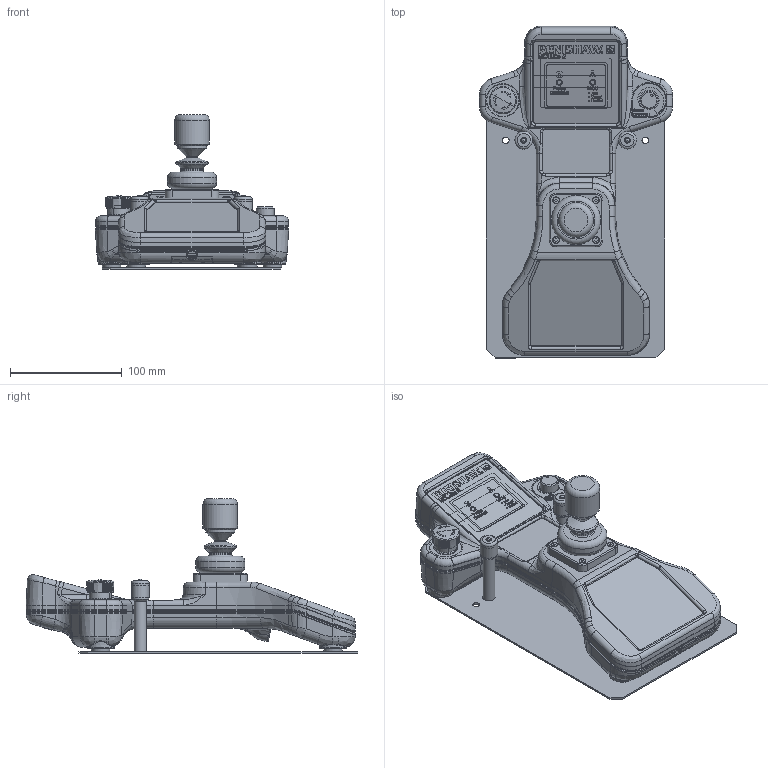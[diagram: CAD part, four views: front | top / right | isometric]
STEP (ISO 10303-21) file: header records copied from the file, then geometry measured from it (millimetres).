
FILE_DESCRIPTION(/* description */ (''),/* implementation_level */ '2;1');
FILE_NAME(/* name */ 'MCUlite-2 _GREY STOP BUTTON_ ASSEMBLY.stp',/* time_stamp */ '2022-01-19T09:20:51+00:00',/* author */ (''),/* organization */ (''),/* preprocessor_version */ 'ST-DEVELOPER v16.7',/* originating_system */ 'SIEMENS PLM Software NX 1946',/* authorisation */ '');
FILE_SCHEMA (('AUTOMOTIVE_DESIGN { 1 0 10303 214 3 1 1 1 }'));
Products named in the file (46): P-SM07-0023-A_Stud Self Clinching M6x12 300Series SS; P-SW01-0035-A_Switch Push Button 42V 0.1A Grey; M-5436-0050-03-B_MCUlite JOYSTICK; F-5734-0601-01-A_MCU-2 FIRMWARE V1.0; M-4151-0152-03-A_MCU BOTTOM ENCLOSURE; M-4151-0151-03-B_MCU TOP ENCLOSURE; P10052-A_PINK ANTISTATIC BAG 4_ X 6_; P-SX02-0019-B_Solder Wire SAC 0.8mm Lead Free; P-CX02-8000-C_Con Crimp Skt 28-32AWG _R_; P-CA09-BE00-A_Wire Equip 7_0.1mm 300V BU; P-CA09-BK00-A_Wire Equip 7_0.1mm 300V BK; P-CA57-0002-A_Sleeve Shrink 2.4mm Yellow 2_1; P-RV02-0003-A_Res Trim 10K 10_ 1W; M-4151-0036-03-A_SUPPORT LEG; P-WM03-10A4-A_BAG POLY SELF SEALING A4; P-WM03-0002-A_BAG SELF SEALING 3.50 X 4.5 IN; M-1015-7599-01-B_MCU1 DP BOX; H-1000-5239-02-A_MCU DOCKING PLATE IL; P-BG03-0017-A_Cap Protective Push-On 13.8IDx13; H-1000-1282-01-A_CMM PRODUCT GUIDES CARD; H-1000-0015-01-A_EXTENDED WARRANTY FLYER - MULTIL; P-AD06-1003-A_Silicone RTV Dow Corning 3140RTV; P-AD04-0019-A_Adhesive Loctite 603; P-WM03-0007-A_BAG SELF SEALING 1.5X2.25; T-4151-0015-04-A_MCU JOYSTICK ASSEMBLY TEST SPEC; P50031-A_DESICCANT 10grm BAG; P50002-A_TAPE ADHESIVE CLEAR 25MM.; P-WM03-0011-A_BAG POLY 12.75 x 22 x 250g; M-1015-0013-02-A_MCU JOYSTICK PACKAGING CARTON; M-1015-0026-01-B_MCU-W JOYSTICK RH PACKAGING INSERT; M-1015-0025-01-B_MCU-W LH JOYSTICK PACKAGING INSERT; P50230-A_SELF SEALING BAG 4 X 5.5_; P-SC02-0320-C_Screw Hex Skt Csk Hd M3x20; M-4151-0153-03-B_MCU CABLE CLAMP; P-FE01-0010-A_ADHESIVE FOOT 19mm DIA BLACK; A-4151-0066-02-F_D TYPE LOOM ASSEMBLY_3D_MODEL; M-5436-0210-03-A_MCUlite-2 LED WINDOW; M-4151-0027-01-G_SPEED OVERRIDE LABEL; A-5734-0070-01-B_STOP LOOM ASSEMBLY _GREY BUTTON__SWITCH_AND_CLAMP_CL
AMP NUT; A-5436-0303-01-A_MCUlite JOYSTICK ASSEMBLY_JOYSTIC_NO_CONNECTOR ...
Assembly tree (54 placements, depth 4):
  A-5436-0400-01-C_MCUlite-2 _GREY STOP BUTTON_ ASSEMBLY
    A-1333-0026-04-A_MCU DOCKING PORT ASSY
      P-BG03-0017-A_Cap Protective Push-On 13.8IDx13  x2
      M-4151-0035-04-A_MCU HOLDER BACK PLATE_SOLID
        P-SM07-0023-A_Stud Self Clinching M6x12 300Series SS  x2
      H-1000-5239-02-A_MCU DOCKING PLATE IL
      M-1015-7599-01-B_MCU1 DP BOX
      P-WM03-0002-A_BAG SELF SEALING 3.50 X 4.5 IN
      P-WM03-10A4-A_BAG POLY SELF SEALING A4
      M-4151-0036-03-A_SUPPORT LEG  x2
    M-4151-0027-01-G_SPEED OVERRIDE LABEL
    M-5436-0210-03-A_MCUlite-2 LED WINDOW
    A-4151-0063-02-D_O_RIDE LOOM_3D_SOLID_SWITCH_ONLY
      P-RV02-0003-A_Res Trim 10K 10_ 1W
      P-CA57-0002-A_Sleeve Shrink 2.4mm Yellow 2_1
      P-CA09-BK00-A_Wire Equip 7_0.1mm 300V BK
      P-CA09-BE00-A_Wire Equip 7_0.1mm 300V BU
      P-CX02-8000-C_Con Crimp Skt 28-32AWG _R_
      P-SX02-0019-B_Solder Wire SAC 0.8mm Lead Free
      P10052-A_PINK ANTISTATIC BAG 4_ X 6_
    A-4151-0150-02-A_MCU ENCLOSURE ASSEMBLY_SOLID
      M-4151-0151-03-B_MCU TOP ENCLOSURE
      M-4151-0152-03-A_MCU BOTTOM ENCLOSURE
    A-4151-0066-02-F_D TYPE LOOM ASSEMBLY_3D_MODEL
    P-FE01-0010-A_ADHESIVE FOOT 19mm DIA BLACK  x4
    M-4151-0153-03-B_MCU CABLE CLAMP
    P-SC02-0320-C_Screw Hex Skt Csk Hd M3x20  x4
    A-5734-0600-01-B_PROGRAMMED MCC3 PCB
      F-5734-0601-01-A_MCU-2 FIRMWARE V1.0
    P50230-A_SELF SEALING BAG 4 X 5.5_
    M-1015-0025-01-B_MCU-W LH JOYSTICK PACKAGING INSERT
    M-1015-0026-01-B_MCU-W JOYSTICK RH PACKAGING INSERT
    M-1015-0013-02-A_MCU JOYSTICK PACKAGING CARTON
    P-WM03-0011-A_BAG POLY 12.75 x 22 x 250g
    P50002-A_TAPE ADHESIVE CLEAR 25MM.
    P50031-A_DESICCANT 10grm BAG
    T-4151-0015-04-A_MCU JOYSTICK ASSEMBLY TEST SPEC
    P-WM03-0007-A_BAG SELF SEALING 1.5X2.25
    P-AD04-0019-A_Adhesive Loctite 603
    A-5436-0303-01-A_MCUlite JOYSTICK ASSEMBLY_JOYSTIC_NO_CONNECTOR
      M-5436-0050-03-B_MCUlite JOYSTICK
    P-AD06-1003-A_Silicone RTV Dow Corning 3140RTV
    A-5734-0070-01-B_STOP LOOM ASSEMBLY _GREY BUTTON__SWITCH_AND_CLAMP_CL
AMP NUT
      P-SW01-0035-A_Switch Push Button 42V 0.1A Grey
    H-1000-0015-01-A_EXTENDED WARRANTY FLYER - MULTIL
    H-1000-1282-01-A_CMM PRODUCT GUIDES CARD
Bounding box: 173 x 297.4 x 138.8 mm (x, y, z)
Volume: 421889.1 mm3; surface area: 334613.9 mm2
Topology: 35 solids, 35 shells, 4519 faces, 12377 edges, 8088 vertices
Faces by surface type: plane 1809, cylinder 1150, bspline 851, cone 269, torus 265, sphere 126, extrusion 49
Full cylindrical faces by diameter (mm): 2 x1, 3 x4, 3.17 x4, 3.2 x2, 3.5 x4, 4 x6, 5.188 x2, 5.795 x2, 6 x10, 6.5 x2, 7 x2, 8 x1, 8.2 x2, 9 x1, 10 x1, 11 x1, 11.1 x2, 11.25 x1, 13.8 x2, 15 x2, 15.8 x2, 16 x1, 16.15 x1, 19 x4, 20 x1, 22.5 x1, 26 x1, 29 x1, 31 x1, 34 x1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
Entity records: 181913 total; most frequent: CARTESIAN_POINT 75254, ORIENTED_EDGE 23630, DIRECTION 18848, EDGE_CURVE 11815, VERTEX_POINT 7898, AXIS2_PLACEMENT_3D 7035, EDGE_LOOP 5002, VECTOR 4778
